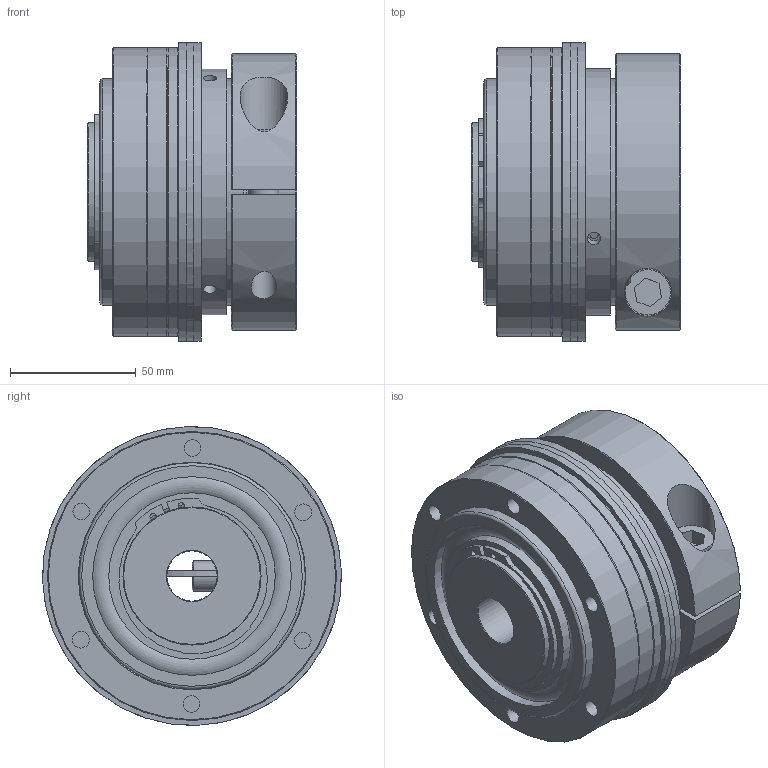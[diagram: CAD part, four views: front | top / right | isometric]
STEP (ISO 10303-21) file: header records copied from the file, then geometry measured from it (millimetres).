
FILE_DESCRIPTION( ( 'Unknown' ), '1' );
FILE_NAME( 'C:/Dokumente und Einstellungen/Sven/Desktop/hp kbk/KBK L-K-300.stp', 'Unknown', ( 'Unknown' ), ( 'Unknown' ), 'XStep 1.0', 'Unknown', ' ' );
FILE_SCHEMA( ( 'automotive_design' ) );
Length unit declared in the file: millimetre
Products named in the file (13): Assem1; Assem2; Assem3; Zylinderschraube DIN 912_2_0; ball_bearing_-_6011_0_01; ball_bearing_-_6011_0_02; ball_bearing_-_6011_0_03; Stellring 300; Druckring 300; a_55; Kupplung L-K-300 Grundkörper; Klemmnabe 300; Flansch 300
Bounding box: 83.25 x 119 x 119 mm (x, y, z)
Surface area: 354050 mm2
Topology: 24 solids, 24 shells, 286 faces, 596 edges, 386 vertices
Faces by surface type: cylinder 114, plane 106, cone 41, torus 25
Full cylindrical faces by diameter (mm): 2.5 x4, 3.242 x6, 5.2 x6, 6.647 x12, 10.106 x2, 12 x3, 12.5 x2, 18 x3, 19 x2, 20 x2, 52 x2, 55 x7, 60 x2, 66.3 x6, 70 x2, 76 x4, 79.1 x6, 83.5 x2, 88 x2, 90 x5, 98 x2, 98.5 x2, 115 x4, 119 x2
Entity records: 3802 total; most frequent: CARTESIAN_POINT 1005, DIRECTION 568, ORIENTED_EDGE 360, AXIS2_PLACEMENT_3D 263, EDGE_LOOP 236, EDGE_CURVE 180, FACE_OUTER_BOUND 176, VERTEX_POINT 154
